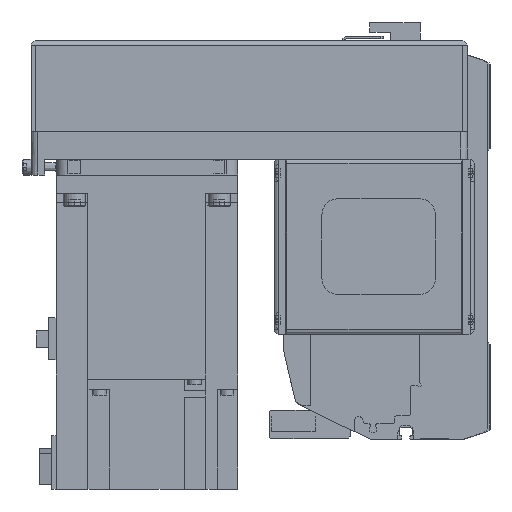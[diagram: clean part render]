
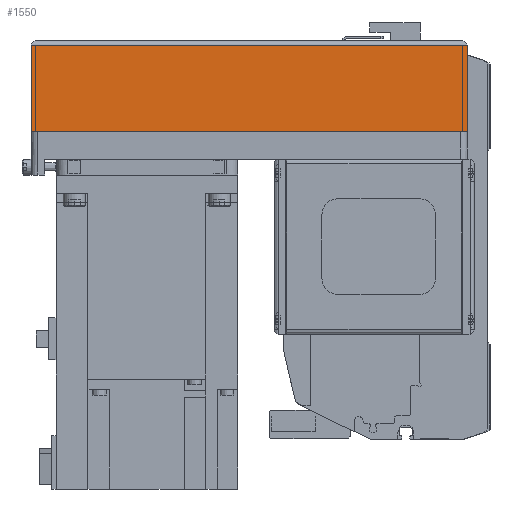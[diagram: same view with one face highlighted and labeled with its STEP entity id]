
A CAD part, left-side view. The second image highlights one B-rep face of the part: STEP entity #1550.
In plain terms, the highlighted planar face has unit normal (-1, 0, 0) as drawn and (0, 1, 0) by its records, which use the part's own axes.
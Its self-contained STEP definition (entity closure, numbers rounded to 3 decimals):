
#1550 = ADVANCED_FACE( '', ( #4062 ), #4063, .T. );
#4062 = FACE_OUTER_BOUND( '', #7928, .T. );
#4063 = PLANE( '', #7929 );
#7928 = EDGE_LOOP( '', ( #12352, #12353, #12354, #12355 ) );
#7929 = AXIS2_PLACEMENT_3D( '', #12356, #12357, #12358 );
#12352 = ORIENTED_EDGE( '', *, *, #22080, .F. );
#12353 = ORIENTED_EDGE( '', *, *, #22081, .F. );
#12354 = ORIENTED_EDGE( '', *, *, #22082, .T. );
#12355 = ORIENTED_EDGE( '', *, *, #22083, .T. );
#12356 = CARTESIAN_POINT( '', ( -192., 40., -50. ) );
#12357 = DIRECTION( '', ( 0., 1., 0. ) );
#12358 = DIRECTION( '', ( 0., 0., 1. ) );
#22080 = EDGE_CURVE( '', #26426, #26427, #26428, .T. );
#22081 = EDGE_CURVE( '', #26429, #26426, #26430, .T. );
#22082 = EDGE_CURVE( '', #26429, #26431, #26432, .T. );
#22083 = EDGE_CURVE( '', #26431, #26427, #26433, .T. );
#26426 = VERTEX_POINT( '', #32671 );
#26427 = VERTEX_POINT( '', #32672 );
#26428 = LINE( '', #32673, #32674 );
#26429 = VERTEX_POINT( '', #32675 );
#26430 = LINE( '', #32676, #32677 );
#26431 = VERTEX_POINT( '', #32678 );
#26432 = LINE( '', #32679, #32680 );
#26433 = LINE( '', #32681, #32682 );
#32671 = CARTESIAN_POINT( '', ( 0., 40., -50. ) );
#32672 = CARTESIAN_POINT( '', ( 0., 40., -12.1 ) );
#32673 = CARTESIAN_POINT( '', ( 0., 40., -50. ) );
#32674 = VECTOR( '', #41215, 1000. );
#32675 = CARTESIAN_POINT( '', ( -192., 40., -50. ) );
#32676 = CARTESIAN_POINT( '', ( -192., 40., -50. ) );
#32677 = VECTOR( '', #41216, 1000. );
#32678 = CARTESIAN_POINT( '', ( -192., 40., -12.1 ) );
#32679 = CARTESIAN_POINT( '', ( -192., 40., -50. ) );
#32680 = VECTOR( '', #41217, 1000. );
#32681 = CARTESIAN_POINT( '', ( -192., 40., -12.1 ) );
#32682 = VECTOR( '', #41218, 1000. );
#41215 = DIRECTION( '', ( 0., 0., 1. ) );
#41216 = DIRECTION( '', ( 1., 0., 0. ) );
#41217 = DIRECTION( '', ( 0., 0., 1. ) );
#41218 = DIRECTION( '', ( 1., 0., 0. ) );
